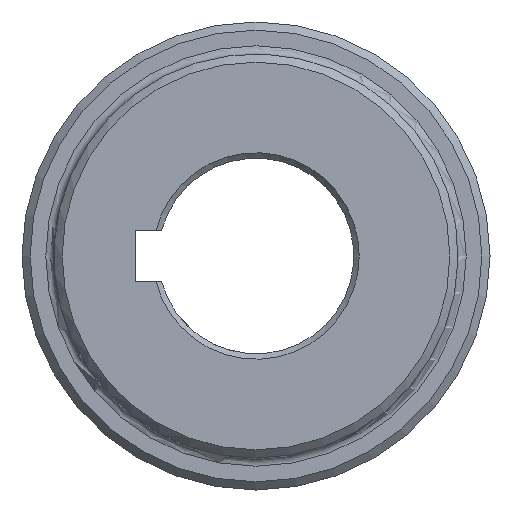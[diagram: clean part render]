
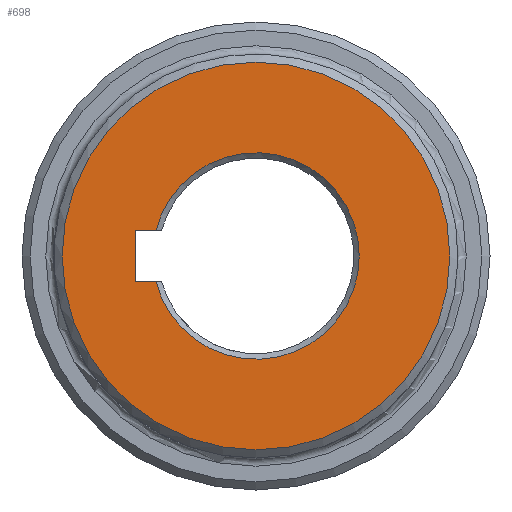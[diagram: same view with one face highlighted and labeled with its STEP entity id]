
A CAD part, left-side view. The second image highlights one B-rep face of the part: STEP entity #698.
In plain terms, the highlighted planar face has unit normal (-1, 0, 0).
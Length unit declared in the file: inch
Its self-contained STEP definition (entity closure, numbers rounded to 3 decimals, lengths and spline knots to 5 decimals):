
#129 = ORIENTED_EDGE ( 'NONE', *, *, #365, .T. ) ;
#132 = DIRECTION ( 'NONE',  ( 0., 0., -1. ) ) ;
#160 = ORIENTED_EDGE ( 'NONE', *, *, #2146, .T. ) ;
#168 = CARTESIAN_POINT ( 'NONE',  ( 0., 0.888, -0.1875 ) ) ;
#222 = AXIS2_PLACEMENT_3D ( 'NONE', #2011, #1979, #2275 ) ;
#276 = CARTESIAN_POINT ( 'NONE',  ( 0., 0., -0.1875 ) ) ;
#307 = LINE ( 'NONE', #1709, #2030 ) ;
#365 = EDGE_CURVE ( 'NONE', #1736, #1736, #1953, .T. ) ;
#397 = CARTESIAN_POINT ( 'NONE',  ( 0., 0., 0. ) ) ;
#403 = ORIENTED_EDGE ( 'NONE', *, *, #777, .F. ) ;
#418 = CARTESIAN_POINT ( 'NONE',  ( 0., 0., -1.425 ) ) ;
#450 = CARTESIAN_POINT ( 'NONE',  ( 0., 0.73548, 0.1875 ) ) ;
#656 = AXIS2_PLACEMENT_3D ( 'NONE', #397, #1337, #1453 ) ;
#664 = CARTESIAN_POINT ( 'NONE',  ( 0., 0.73548, -0.1875 ) ) ;
#676 = PLANE ( 'NONE',  #222 ) ;
#698 = ADVANCED_FACE ( 'NONE', ( #1046, #1085 ), #676, .F. ) ;
#706 = EDGE_LOOP ( 'NONE', ( #2123, #160, #1945, #403 ) ) ;
#724 = CARTESIAN_POINT ( 'NONE',  ( 0., 0.888, 0.1875 ) ) ;
#745 = VERTEX_POINT ( 'NONE', #450 ) ;
#776 = EDGE_LOOP ( 'NONE', ( #129 ) ) ;
#777 = EDGE_CURVE ( 'NONE', #1099, #1141, #1985, .T. ) ;
#1046 = FACE_OUTER_BOUND ( 'NONE', #776, .T. ) ;
#1085 = FACE_BOUND ( 'NONE', #706, .T. ) ;
#1099 = VERTEX_POINT ( 'NONE', #724 ) ;
#1141 = VERTEX_POINT ( 'NONE', #1197 ) ;
#1197 = CARTESIAN_POINT ( 'NONE',  ( 0., 0.888, -0.1875 ) ) ;
#1288 = LINE ( 'NONE', #276, #1656 ) ;
#1337 = DIRECTION ( 'NONE',  ( 1., 0., 0. ) ) ;
#1438 = EDGE_CURVE ( 'NONE', #745, #1099, #307, .T. ) ;
#1453 = DIRECTION ( 'NONE',  ( 0., 0., -1. ) ) ;
#1549 = DIRECTION ( 'NONE',  ( 0., 0., -1. ) ) ;
#1656 = VECTOR ( 'NONE', #1748, 39.37008 ) ;
#1709 = CARTESIAN_POINT ( 'NONE',  ( 0., 0., 0.1875 ) ) ;
#1726 = EDGE_CURVE ( 'NONE', #1141, #2352, #1288, .T. ) ;
#1736 = VERTEX_POINT ( 'NONE', #418 ) ;
#1748 = DIRECTION ( 'NONE',  ( 0., -1., 0. ) ) ;
#1918 = DIRECTION ( 'NONE',  ( -1., 0., 0. ) ) ;
#1920 = VECTOR ( 'NONE', #1549, 39.37008 ) ;
#1945 = ORIENTED_EDGE ( 'NONE', *, *, #1726, .F. ) ;
#1953 = CIRCLE ( 'NONE', #2192, 1.425 ) ;
#1979 = DIRECTION ( 'NONE',  ( 1., 0., 0. ) ) ;
#1985 = LINE ( 'NONE', #168, #1920 ) ;
#2011 = CARTESIAN_POINT ( 'NONE',  ( 0., 0., 0. ) ) ;
#2030 = VECTOR ( 'NONE', #2136, 39.37008 ) ;
#2123 = ORIENTED_EDGE ( 'NONE', *, *, #1438, .F. ) ;
#2136 = DIRECTION ( 'NONE',  ( 0., 1., 0. ) ) ;
#2146 = EDGE_CURVE ( 'NONE', #745, #2352, #2167, .T. ) ;
#2167 = CIRCLE ( 'NONE', #656, 0.759 ) ;
#2192 = AXIS2_PLACEMENT_3D ( 'NONE', #2361, #1918, #132 ) ;
#2275 = DIRECTION ( 'NONE',  ( 0., 0., -1. ) ) ;
#2352 = VERTEX_POINT ( 'NONE', #664 ) ;
#2361 = CARTESIAN_POINT ( 'NONE',  ( 0., 0., 0. ) ) ;
